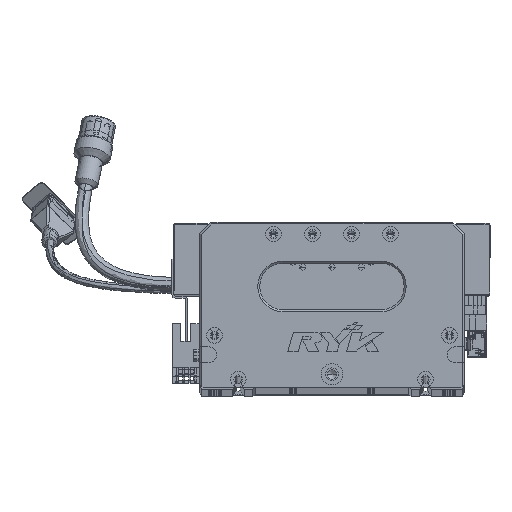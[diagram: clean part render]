
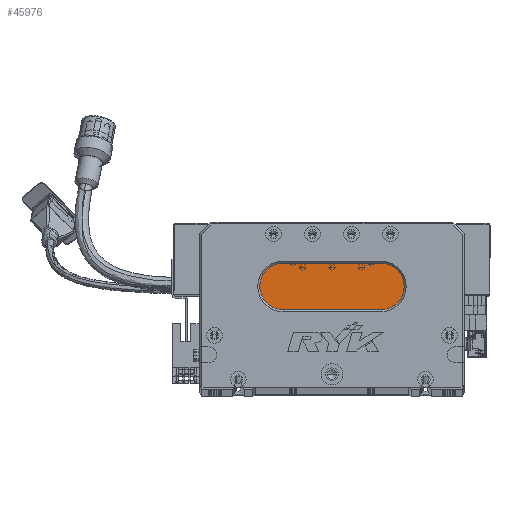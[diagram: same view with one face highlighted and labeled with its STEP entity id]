
A CAD part, top view. The second image highlights one B-rep face of the part: STEP entity #45976.
In plain terms, the highlighted planar face has unit normal (0, 0, 1) as drawn and (0, 0, -1) by its records, which use the part's own axes.
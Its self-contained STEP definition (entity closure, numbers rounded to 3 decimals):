
#1444 = EDGE_CURVE ( 'NONE', #50600, #17505, #67586, .T. ) ;
#2244 = VERTEX_POINT ( 'NONE', #54215 ) ;
#6900 = DIRECTION ( 'NONE',  ( -1., 0., 0. ) ) ;
#7213 = DIRECTION ( 'NONE',  ( 0., 0., -1. ) ) ;
#13180 = ORIENTED_EDGE ( 'NONE', *, *, #117724, .T. ) ;
#15975 = LINE ( 'NONE', #65576, #23162 ) ;
#16686 = AXIS2_PLACEMENT_3D ( 'NONE', #71336, #7213, #25754 ) ;
#17505 = VERTEX_POINT ( 'NONE', #99660 ) ;
#18523 = CARTESIAN_POINT ( 'NONE',  ( 31., 52., 13. ) ) ;
#23162 = VECTOR ( 'NONE', #74072, 1000. ) ;
#24242 = ORIENTED_EDGE ( 'NONE', *, *, #114723, .T. ) ;
#25754 = DIRECTION ( 'NONE',  ( -1., 0., 0. ) ) ;
#33162 = CARTESIAN_POINT ( 'NONE',  ( 43., 52., 13. ) ) ;
#38603 = CARTESIAN_POINT ( 'NONE',  ( 43., 40., 13. ) ) ;
#42112 = EDGE_CURVE ( 'NONE', #2244, #67920, #109508, .T. ) ;
#45188 = AXIS2_PLACEMENT_3D ( 'NONE', #109940, #102246, #110738 ) ;
#45976 = ADVANCED_FACE ( 'NONE', ( #82869 ), #100647, .T. ) ;
#48402 = ORIENTED_EDGE ( 'NONE', *, *, #42112, .T. ) ;
#49756 = ORIENTED_EDGE ( 'NONE', *, *, #1444, .T. ) ;
#50600 = VERTEX_POINT ( 'NONE', #18523 ) ;
#51301 = CARTESIAN_POINT ( 'NONE',  ( 43., 52., 13. ) ) ;
#54215 = CARTESIAN_POINT ( 'NONE',  ( 93., 40., 13. ) ) ;
#55422 = CARTESIAN_POINT ( 'NONE',  ( 93., 64., 13. ) ) ;
#60562 = CARTESIAN_POINT ( 'NONE',  ( 93., 40., 13. ) ) ;
#62209 = DIRECTION ( 'NONE',  ( -1., 0., 0. ) ) ;
#64202 = ORIENTED_EDGE ( 'NONE', *, *, #116590, .T. ) ;
#65576 = CARTESIAN_POINT ( 'NONE',  ( 93., 64., 13. ) ) ;
#67586 = CIRCLE ( 'NONE', #88275, 12. ) ;
#67920 = VERTEX_POINT ( 'NONE', #38603 ) ;
#70489 = CIRCLE ( 'NONE', #16686, 12. ) ;
#71336 = CARTESIAN_POINT ( 'NONE',  ( 93., 52., 13. ) ) ;
#72710 = VERTEX_POINT ( 'NONE', #55422 ) ;
#74072 = DIRECTION ( 'NONE',  ( 1., 0., 0. ) ) ;
#77824 = AXIS2_PLACEMENT_3D ( 'NONE', #51301, #116288, #115899 ) ;
#80789 = DIRECTION ( 'NONE',  ( 0., 0., -1. ) ) ;
#82869 = FACE_OUTER_BOUND ( 'NONE', #108013, .T. ) ;
#84763 = CIRCLE ( 'NONE', #77824, 12. ) ;
#88275 = AXIS2_PLACEMENT_3D ( 'NONE', #33162, #80789, #62209 ) ;
#99660 = CARTESIAN_POINT ( 'NONE',  ( 43., 64., 13. ) ) ;
#100647 = PLANE ( 'NONE',  #45188 ) ;
#102246 = DIRECTION ( 'NONE',  ( 0., 0., -1. ) ) ;
#102331 = VECTOR ( 'NONE', #6900, 1000. ) ;
#108013 = EDGE_LOOP ( 'NONE', ( #64202, #48402, #13180, #49756, #24242 ) ) ;
#109508 = LINE ( 'NONE', #60562, #102331 ) ;
#109940 = CARTESIAN_POINT ( 'NONE',  ( 93., 52., 13. ) ) ;
#110738 = DIRECTION ( 'NONE',  ( -1., 0., 0. ) ) ;
#114723 = EDGE_CURVE ( 'NONE', #17505, #72710, #15975, .T. ) ;
#115899 = DIRECTION ( 'NONE',  ( -1., 0., 0. ) ) ;
#116288 = DIRECTION ( 'NONE',  ( 0., 0., -1. ) ) ;
#116590 = EDGE_CURVE ( 'NONE', #72710, #2244, #70489, .T. ) ;
#117724 = EDGE_CURVE ( 'NONE', #67920, #50600, #84763, .T. ) ;
